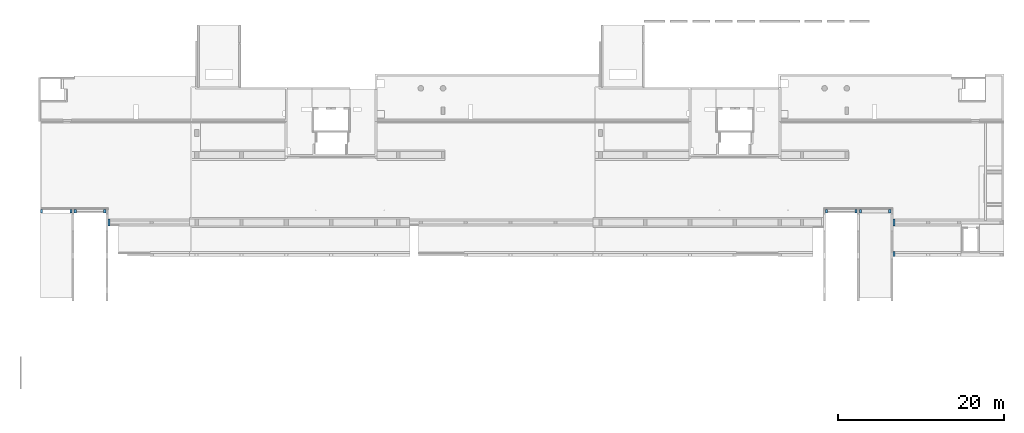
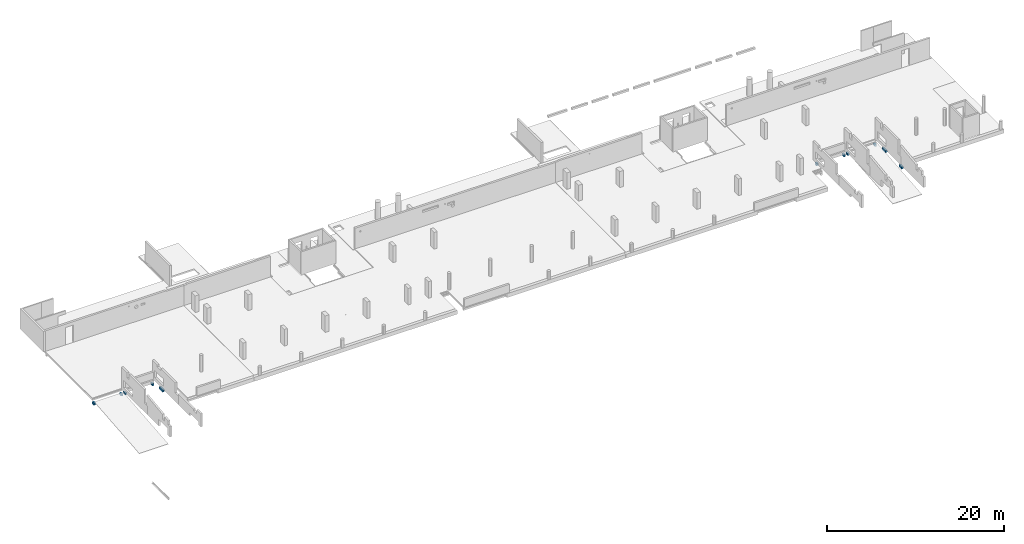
# One storey, part 10 of 10: 11 walls.
"""IFC2X3 building model written with IfcOpenShell, lengths in millimetres."""

import ifcopenshell
import ifcopenshell.guid

model = None  # the IFC model being written
_history = None  # IfcOwnerHistory: only IFC2X3 demands one
_inside = {}  # id of a spatial element -> (the spatial element, [elements in it])
_under = {}  # id of a project, library or spatial element -> (it, [spatial elements below it])
_declared = {}  # id of a project -> (the project, [libraries it declares])
_typed = {}  # id of a type object -> (the type object, [elements of that type])
_made_of = {}  # id of a material, layer set ... -> (it, [elements and type objects made of it])


def new_model(schema):
    """Start an empty IFC model of exactly this schema.

    Asked for "IFC4X3", IfcOpenShell would pick the latest addendum, in which some entities
    have other attributes; the version numbers below select the first issue.
    IFC2X3 requires an IfcOwnerHistory on every rooted entity: one is made here for all.
    """
    global model, _history
    if schema == "IFC4X3":
        model = ifcopenshell.file(schema_version=(4, 3, 0, 0))
    else:
        model = ifcopenshell.file(schema=schema)
    _inside.clear()
    _under.clear()
    _declared.clear()
    _typed.clear()
    _made_of.clear()
    _history = None
    if model.schema == "IFC2X3":
        org = make("IfcOrganization", Name="unknown")
        user = make(
            "IfcPersonAndOrganization",
            ThePerson=make("IfcPerson", FamilyName="unknown"),
            TheOrganization=org,
        )
        app = make(
            "IfcApplication",
            ApplicationDeveloper=org,
            Version="unknown",
            ApplicationFullName="unknown",
            ApplicationIdentifier="unknown",
        )
        _history = make(
            "IfcOwnerHistory",
            OwningUser=user,
            OwningApplication=app,
            ChangeAction="ADDED",
            CreationDate=0,
        )
    return model


def make(cls, **values):
    """One entity of the class cls with the attributes given. An attribute that is None is left unset."""
    return model.create_entity(
        cls, **{name: value for name, value in values.items() if value is not None}
    )


def entity(cls, *values):
    """Any entity or typed value of the class cls, its attributes in the order of the schema. None: left unset."""
    e = model.create_entity(cls)
    for i, value in enumerate(values):
        if value is not None:
            e[i] = value
    return e


def rooted(cls, **values):
    """An entity with a GlobalId (a new one), such as an element, a storey or a relation."""
    return make(cls, GlobalId=ifcopenshell.guid.new(), OwnerHistory=_history, **values)


def si_unit(unit_type, name, prefix=None):
    """IfcSIUnit, for example si_unit("LENGTHUNIT", "METRE", prefix="MILLI")."""
    return make("IfcSIUnit", UnitType=unit_type, Prefix=prefix, Name=name)


def converted_unit(unit_type, name, factor, base, dimensions=None, offset=None):
    """IfcConversionBasedUnit, such as the inch: factor (a typed value) times the base unit."""
    return make(
        "IfcConversionBasedUnit"
        if offset is None
        else "IfcConversionBasedUnitWithOffset",
        ConversionOffset=offset,
        Dimensions=None
        if dimensions is None
        else entity("IfcDimensionalExponents", *dimensions),
        UnitType=unit_type,
        Name=name,
        ConversionFactor=make(
            "IfcMeasureWithUnit", ValueComponent=factor, UnitComponent=base
        ),
    )


def derived_unit(unit_type, elements):
    """IfcDerivedUnit: a product of units, each with its exponent."""
    return make(
        "IfcDerivedUnit",
        Elements=[
            make("IfcDerivedUnitElement", Unit=unit, Exponent=power)
            for unit, power in elements
        ],
        UnitType=unit_type,
    )


def assignment(units):
    """IfcUnitAssignment: the units of a project."""
    return None if units is None else make("IfcUnitAssignment", Units=units)


def point(xyz):
    """IfcCartesianPoint."""
    return None if xyz is None else make("IfcCartesianPoint", Coordinates=xyz)


def direction(xyz):
    """IfcDirection."""
    return None if xyz is None else make("IfcDirection", DirectionRatios=xyz)


def frame(location, z_axis=None, x_axis=None):
    """IfcAxis2Placement3D, a coordinate frame: its origin and axes. An axis left out is left unset."""
    return make(
        "IfcAxis2Placement3D",
        Location=point(location),
        Axis=direction(z_axis),
        RefDirection=direction(x_axis),
    )


def origin():
    """The frame at (0, 0, 0) with its axes left unset."""
    return frame((0.0, 0.0, 0.0))


def place(relative_to, where):
    """IfcLocalPlacement: puts the frame where relative to a parent placement (None: the world)."""
    return make(
        "IfcLocalPlacement", PlacementRelTo=relative_to, RelativePlacement=where
    )


def context(
    kind, dimensions, precision=None, world=None, true_north=None, identifier=None
):
    """IfcGeometricRepresentationContext, for example the 3D "Model" context."""
    return make(
        "IfcGeometricRepresentationContext",
        ContextIdentifier=identifier,
        ContextType=kind,
        CoordinateSpaceDimension=dimensions,
        Precision=precision,
        WorldCoordinateSystem=world,
        TrueNorth=true_north,
    )


def subcontext(parent, identifier, kind, view, scale=None):
    """IfcGeometricRepresentationSubContext, for example "Body" below "Model"."""
    return make(
        "IfcGeometricRepresentationSubContext",
        ContextIdentifier=identifier,
        ContextType=kind,
        ParentContext=parent,
        TargetScale=scale,
        TargetView=view,
    )


def project(units=None, contexts=None):
    """IfcProject with its units and contexts."""
    return rooted(
        "IfcProject",
        Name="project",
        RepresentationContexts=contexts,
        UnitsInContext=assignment(units),
    )


def spatial(cls, under=None, at=None, **own):
    """A site, building, storey or space (cls), placed at a placement, below another one or the project."""
    s = rooted(cls, ObjectPlacement=at, **own)
    if under is not None:
        _under.setdefault(under.id(), (under, []))[1].append(s)
    return s


def faces_of(points, faces, orient=None, outer=None):
    """IfcFace entities. A face is a list of loops; a loop is a list of indices into points, from 0.

    orient and outer hold one flag for each loop. By default every Orientation is true, the
    first loop of a face is its IfcFaceOuterBound and the others are IfcFaceBound.
    """
    made = []
    for i, loops in enumerate(faces):
        bounds = []
        for j, loop in enumerate(loops):
            is_outer = j == 0 if outer is None else outer[i][j]
            bounds.append(
                make(
                    "IfcFaceOuterBound" if is_outer else "IfcFaceBound",
                    Bound=make("IfcPolyLoop", Polygon=[points[k] for k in loop]),
                    Orientation=True if orient is None else orient[i][j],
                )
            )
        made.append(make("IfcFace", Bounds=bounds))
    return made


def faceted_brep(points, faces, orient=None, outer=None, voids=None):
    """IfcFacetedBrep: a solid bounded by flat faces; with voids (closed shells), ...WithVoids."""
    shared = [point(p) for p in points]
    hull = make("IfcClosedShell", CfsFaces=faces_of(shared, faces, orient, outer))
    if voids is None:
        return make("IfcFacetedBrep", Outer=hull)
    return make(
        "IfcFacetedBrepWithVoids",
        Outer=hull,
        Voids=[
            make(cls, CfsFaces=faces_of(shared, fs, o, b)) for cls, fs, o, b in voids
        ],
    )


def shape(context_of_items, identifier, shape_type, items):
    """IfcShapeRepresentation: the items that make up one representation, for example the "Body"."""
    return make(
        "IfcShapeRepresentation",
        ContextOfItems=context_of_items,
        RepresentationIdentifier=identifier,
        RepresentationType=shape_type,
        Items=items,
    )


def material(Name=None, Category=None):
    """IfcMaterial."""
    return make("IfcMaterial", Name=Name, Category=Category)


def made_of(thing, what):
    """Note that an element or type object is made of a material, layer set ...; save() writes the relation."""
    if what is not None:
        _made_of.setdefault(what.id(), (what, []))[1].append(thing)
    return thing


def type_object(cls, material=None, **own):
    """A type object (cls), such as IfcWallType, which elements share."""
    return made_of(rooted(cls, **own), material)


def element(
    cls,
    number,
    at=None,
    inside=None,
    cuts=None,
    type_object=None,
    material=None,
    context=None,
    identifier="Body",
    shape_type=None,
    held_by="IfcProductDefinitionShape",
    body=None,
    shapes=None,
    **own,
):
    """One element of the class cls, such as IfcWall. Its Tag is "e" and its number.

    at: its placement. inside: the storey or other place that contains it. cuts: it is an
    opening in that element (IfcRelVoidsElement). A single representation is given by context,
    identifier, shape_type and body (its items); several are given by shapes. held_by: the class
    of the entity that holds the representations. save() writes the other relations.
    """
    e = rooted(cls, Tag="e%d" % number, ObjectPlacement=at, **own)
    if body is not None:
        shapes = [shape(context, identifier, shape_type, body)]
    if shapes is not None:
        e.Representation = make(held_by, Representations=shapes)
    if inside is not None:
        _inside.setdefault(inside.id(), (inside, []))[1].append(e)
    if cuts is not None:
        rooted(
            "IfcRelVoidsElement", RelatingBuildingElement=cuts, RelatedOpeningElement=e
        )
    if type_object is not None:
        _typed.setdefault(type_object.id(), (type_object, []))[1].append(e)
    return made_of(e, material)


def aggregate(whole, parts):
    """IfcRelAggregates: a whole, such as a stair, and the parts it consists of."""
    return rooted("IfcRelAggregates", RelatingObject=whole, RelatedObjects=parts)


def save(model, path):
    """Write the relations noted so far, then the file.

    IfcRelAggregates (storeys below a building ...), IfcRelContainedInSpatialStructure (elements
    in a storey), IfcRelDefinesByType, IfcRelAssociatesMaterial and IfcRelDeclares: one each for
    every whole, place, type object, material and project.
    """
    for whole, parts in _under.values():
        aggregate(whole, parts)
    for where, things in _inside.values():
        rooted(
            "IfcRelContainedInSpatialStructure",
            RelatedElements=things,
            RelatingStructure=where,
        )
    for kind, things in _typed.values():
        rooted("IfcRelDefinesByType", RelatedObjects=things, RelatingType=kind)
    for what, things in _made_of.values():
        rooted("IfcRelAssociatesMaterial", RelatedObjects=things, RelatingMaterial=what)
    for by, libraries in _declared.values():
        rooted("IfcRelDeclares", RelatingContext=by, RelatedDefinitions=libraries)
    model.write(path)


model = new_model("IFC2X3")

# Units and contexts
model_context = context("Model", 3, precision=0.01, world=origin(), true_north=direction((6.12303176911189e-17, 1.0)))
body_context = subcontext(model_context, "Body", "Model", "MODEL_VIEW")
ifc_project = project(units=[si_unit("LENGTHUNIT", "METRE", prefix="MILLI"), si_unit("AREAUNIT", "SQUARE_METRE"), si_unit("VOLUMEUNIT", "CUBIC_METRE"), converted_unit("PLANEANGLEUNIT", "DEGREE", entity("IfcRatioMeasure", 0.0174532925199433), si_unit("PLANEANGLEUNIT", "RADIAN"), dimensions=[0, 0, 0, 0, 0, 0, 0]), si_unit("MASSUNIT", "GRAM", prefix="KILO"), derived_unit("MASSDENSITYUNIT", [(si_unit("MASSUNIT", "GRAM", prefix="KILO"), 1), (si_unit("LENGTHUNIT", "METRE"), -3)]), si_unit("TIMEUNIT", "SECOND"), si_unit("FREQUENCYUNIT", "HERTZ"), si_unit("THERMODYNAMICTEMPERATUREUNIT", "DEGREE_CELSIUS"), derived_unit("THERMALTRANSMITTANCEUNIT", [(si_unit("MASSUNIT", "GRAM", prefix="KILO"), 1), (si_unit("THERMODYNAMICTEMPERATUREUNIT", "KELVIN"), -1), (si_unit("TIMEUNIT", "SECOND"), -3)]), derived_unit("VOLUMETRICFLOWRATEUNIT", [(si_unit("LENGTHUNIT", "METRE"), 3), (si_unit("TIMEUNIT", "SECOND"), -1)]), si_unit("ELECTRICCURRENTUNIT", "AMPERE"), si_unit("ELECTRICVOLTAGEUNIT", "VOLT"), si_unit("POWERUNIT", "WATT"), si_unit("FORCEUNIT", "NEWTON", prefix="KILO"), si_unit("ILLUMINANCEUNIT", "LUX"), si_unit("LUMINOUSFLUXUNIT", "LUMEN"), si_unit("LUMINOUSINTENSITYUNIT", "CANDELA"), derived_unit("USERDEFINED", [(si_unit("MASSUNIT", "GRAM", prefix="KILO"), -1), (si_unit("LENGTHUNIT", "METRE"), -2), (si_unit("TIMEUNIT", "SECOND"), 3), (si_unit("LUMINOUSFLUXUNIT", "LUMEN"), 1)]), derived_unit("LINEARVELOCITYUNIT", [(si_unit("LENGTHUNIT", "METRE"), 1), (si_unit("TIMEUNIT", "SECOND"), -1)]), si_unit("PRESSUREUNIT", "PASCAL"), derived_unit("USERDEFINED", [(si_unit("LENGTHUNIT", "METRE"), -2), (si_unit("MASSUNIT", "GRAM", prefix="KILO"), 1), (si_unit("TIMEUNIT", "SECOND"), -2)])], contexts=[model_context])

# Site, building, storey
site_placement = place(None, origin())
site = spatial("IfcSite", under=ifc_project, at=site_placement, Name="Default", CompositionType="ELEMENT")
building_placement = place(site_placement, origin())
building = spatial("IfcBuilding", under=site, at=building_placement, Name="niet gebruiken", CompositionType="ELEMENT")
storey_placement = place(building_placement, frame((0.0, 0.0, 9410.0)))
storey = spatial("IfcBuildingStorey", under=building, at=storey_placement, Name="02b tweede tussenverdieping", CompositionType="ELEMENT", Elevation=9409.99999999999)

# Walls
ifc_material = material(Name="NLRS_f2_beton prefab")
wall_type_1 = type_object("IfcWallType", Name="NLRS_21.21_SF_WPB_oplegnok prefabbeton_gen:250x310", PredefinedType="NOTDEFINED", material=ifc_material)
wall_1_placement = place(storey_placement, frame((110825.0, 28481.0, -850.0), z_axis=(0.0, 0.0, 1.0), x_axis=(0.0, 1.0, 0.0)))
element("IfcWall", 1, at=wall_1_placement, inside=storey, type_object=wall_type_1, material=ifc_material, Name="NLRS_21.21_SF_WPB_oplegnok prefabbeton_gen:250x310", ObjectType="NLRS_21.21_SF_WPB_oplegnok prefabbeton_gen:250x310", context=body_context, shape_type="Brep", body=[
    faceted_brep([(0.0, 0.0, 310.0), (0.0, 0.0, 0.0), (0.0, -250.0, 39.9987607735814), (0.0, -250.0, 310.0), (800.0, 0.0, 310.0), (800.0, -250.0, 310.0), (800.0, -250.0, 39.9987607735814), (800.0, 0.0, 0.0)], [[[0, 1, 2, 3]], [[4, 5, 6, 7]], [[1, 0, 4, 7]], [[3, 2, 6, 5]], [[0, 3, 5, 4]], [[2, 1, 7, 6]]]),
])
wall_2_placement = place(storey_placement, frame((110825.0, 24776.0, -850.0), z_axis=(0.0, 0.0, 1.0), x_axis=(0.0, 1.0, 0.0)))
element("IfcWall", 2, at=wall_2_placement, inside=storey, type_object=wall_type_1, material=ifc_material, Name="NLRS_21.21_SF_WPB_oplegnok prefabbeton_gen:250x310", ObjectType="NLRS_21.21_SF_WPB_oplegnok prefabbeton_gen:250x310", context=body_context, shape_type="Brep", body=[
    faceted_brep([(0.0, 0.0, 310.0), (0.0, 0.0, 0.0), (0.0, -250.0, 39.9987607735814), (0.0, -250.0, 310.0), (600.0, 0.0, 310.0), (600.0, -250.0, 310.0), (600.0, -250.0, 39.9987607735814), (600.0, 0.0, 0.0)], [[[0, 1, 2, 3]], [[4, 5, 6, 7]], [[1, 0, 4, 7]], [[3, 2, 6, 5]], [[0, 3, 5, 4]], [[2, 1, 7, 6]]]),
])
wall_3_placement = place(storey_placement, frame((16325.0, 28481.0, -850.0), z_axis=(0.0, 0.0, 1.0), x_axis=(0.0, 1.0, 0.0)))
element("IfcWall", 3, at=wall_3_placement, inside=storey, type_object=wall_type_1, material=ifc_material, Name="NLRS_21.21_SF_WPB_oplegnok prefabbeton_gen:250x310", ObjectType="NLRS_21.21_SF_WPB_oplegnok prefabbeton_gen:250x310", context=body_context, shape_type="Brep", body=[
    faceted_brep([(0.0, 0.0, 310.0), (0.0, 0.0, 0.0), (0.0, -250.0, 39.9987607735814), (0.0, -250.0, 310.0), (800.0, 0.0, 310.0), (800.0, -250.0, 310.0), (800.0, -250.0, 39.9987607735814), (800.0, 0.0, 0.0)], [[[0, 1, 2, 3]], [[4, 5, 6, 7]], [[1, 0, 4, 7]], [[3, 2, 6, 5]], [[0, 3, 5, 4]], [[2, 1, 7, 6]]]),
])
wall_type_2 = type_object("IfcWallType", Name="NLRS_21.21_SF_WPB_oplegnok prefabbeton_gen:250x270 met afschuining 9gr", PredefinedType="NOTDEFINED", material=ifc_material)
wall_4_placement = place(storey_placement, frame((12275.0, 30026.0, -770.0), z_axis=(0.0, 0.0, 1.0), x_axis=(0.0, 1.0, 0.0)))
element("IfcWall", 4, at=wall_4_placement, inside=storey, type_object=wall_type_2, material=ifc_material, Name="NLRS_21.21_SF_WPB_oplegnok prefabbeton_gen:250x270 met afschuining 9gr", ObjectType="NLRS_21.21_SF_WPB_oplegnok prefabbeton_gen:250x270 met afschuining 9gr", context=body_context, shape_type="Brep", body=[
    faceted_brep([(0.0, 0.0, 310.0), (0.0, 0.0, 0.0), (0.0, -250.0, 39.5961100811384), (0.0, -250.0, 310.0), (400.0, 0.0, 310.0), (400.0, -250.0, 310.0), (400.0, -250.0, 39.5961100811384), (400.0, 0.0, 0.0)], [[[0, 1, 2, 3]], [[4, 5, 6, 7]], [[1, 0, 4, 7]], [[3, 2, 6, 5]], [[0, 3, 5, 4]], [[2, 1, 7, 6]]]),
])
wall_5_placement = place(storey_placement, frame((15825.0, 30026.0, -770.0), z_axis=(0.0, 0.0, 1.0), x_axis=(0.0, 1.0, 0.0)))
element("IfcWall", 5, at=wall_5_placement, inside=storey, type_object=wall_type_2, material=ifc_material, Name="NLRS_21.21_SF_WPB_oplegnok prefabbeton_gen:250x270 met afschuining 9gr", ObjectType="NLRS_21.21_SF_WPB_oplegnok prefabbeton_gen:250x270 met afschuining 9gr", context=body_context, shape_type="Brep", body=[
    faceted_brep([(0.0, -250.0, 310.0), (0.0, 0.0, 310.0), (0.0, 0.0, 39.5961100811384), (0.0, -250.0, 0.0), (400.0, -250.0, 310.0), (400.0, -250.0, 0.0), (400.0, 0.0, 39.5961100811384), (400.0, 0.0, 310.0)], [[[0, 1, 2, 3]], [[4, 5, 6, 7]], [[3, 5, 4, 0]], [[1, 7, 6, 2]], [[0, 4, 7, 1]], [[2, 6, 5, 3]]]),
])
wall_6_placement = place(storey_placement, frame((8225.0, 30046.0, -770.0), z_axis=(0.0, 0.0, 1.0), x_axis=(0.0, 1.0, 0.0)))
element("IfcWall", 6, at=wall_6_placement, inside=storey, type_object=wall_type_2, material=ifc_material, Name="NLRS_21.21_SF_WPB_oplegnok prefabbeton_gen:250x270 met afschuining 9gr", ObjectType="NLRS_21.21_SF_WPB_oplegnok prefabbeton_gen:250x270 met afschuining 9gr", context=body_context, shape_type="Brep", body=[
    faceted_brep([(0.0, 0.0, 310.0), (0.0, 0.0, 0.0), (0.0, -250.0, 39.5961100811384), (0.0, -250.0, 310.0), (380.0, 0.0, 310.0), (380.0, -250.0, 310.0), (380.0, -250.0, 39.5961100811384), (380.0, 0.0, 0.0)], [[[0, 1, 2, 3]], [[4, 5, 6, 7]], [[1, 0, 4, 7]], [[3, 2, 6, 5]], [[0, 3, 5, 4]], [[2, 1, 7, 6]]]),
])
wall_7_placement = place(storey_placement, frame((11775.0, 30046.0, -770.0), z_axis=(0.0, 0.0, 1.0), x_axis=(0.0, 1.0, 0.0)))
element("IfcWall", 7, at=wall_7_placement, inside=storey, type_object=wall_type_2, material=ifc_material, Name="NLRS_21.21_SF_WPB_oplegnok prefabbeton_gen:250x270 met afschuining 9gr", ObjectType="NLRS_21.21_SF_WPB_oplegnok prefabbeton_gen:250x270 met afschuining 9gr", context=body_context, shape_type="Brep", body=[
    faceted_brep([(0.0, -250.0, 310.0), (0.0, 0.0, 310.0), (0.0, 0.0, 39.5961100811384), (0.0, -250.0, 0.0), (380.0, -250.0, 310.0), (380.0, -250.0, 0.0), (380.0, 0.0, 39.5961100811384), (380.0, 0.0, 310.0)], [[[0, 1, 2, 3]], [[4, 5, 6, 7]], [[3, 5, 4, 0]], [[1, 7, 6, 2]], [[0, 4, 7, 1]], [[2, 6, 5, 3]]]),
])
wall_type_3 = type_object("IfcWallType", Name="NLRS_21.21_SF_WPB_oplegnok prefabbeton_gen:250x270 met afschuining -9gr", PredefinedType="NOTDEFINED", material=ifc_material)
wall_8_placement = place(storey_placement, frame((106275.0, 30026.0, -769.596110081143), z_axis=(0.0, 0.0, 1.0), x_axis=(0.0, 1.0, 0.0)))
element("IfcWall", 8, at=wall_8_placement, inside=storey, type_object=wall_type_3, material=ifc_material, Name="NLRS_21.21_SF_WPB_oplegnok prefabbeton_gen:250x270 met afschuining -9gr", ObjectType="NLRS_21.21_SF_WPB_oplegnok prefabbeton_gen:250x270 met afschuining -9gr", context=body_context, shape_type="Brep", body=[
    faceted_brep([(0.0, 0.0, 309.59611008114), (0.0, 0.0, 39.5961100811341), (0.0, -250.0, 0.0), (0.0, -250.0, 309.59611008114), (400.0, 0.0, 309.59611008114), (400.0, -250.0, 309.59611008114), (400.0, -250.0, 0.0), (400.0, 0.0, 39.5961100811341)], [[[0, 1, 2, 3]], [[4, 5, 6, 7]], [[1, 0, 4, 7]], [[3, 2, 6, 5]], [[0, 3, 5, 4]], [[2, 1, 7, 6]]]),
])
wall_9_placement = place(storey_placement, frame((102725.0, 30026.0, -769.596110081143), z_axis=(0.0, 0.0, 1.0), x_axis=(0.0, 1.0, 0.0)))
element("IfcWall", 9, at=wall_9_placement, inside=storey, type_object=wall_type_3, material=ifc_material, Name="NLRS_21.21_SF_WPB_oplegnok prefabbeton_gen:250x270 met afschuining -9gr", ObjectType="NLRS_21.21_SF_WPB_oplegnok prefabbeton_gen:250x270 met afschuining -9gr", context=body_context, shape_type="Brep", body=[
    faceted_brep([(0.0, -250.0, 309.59611008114), (0.0, 0.0, 309.59611008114), (0.0, 0.0, 0.0), (0.0, -250.0, 39.5961100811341), (400.0, -250.0, 309.59611008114), (400.0, -250.0, 39.5961100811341), (400.0, 0.0, 0.0), (400.0, 0.0, 309.59611008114)], [[[0, 1, 2, 3]], [[4, 5, 6, 7]], [[3, 5, 4, 0]], [[1, 7, 6, 2]], [[0, 4, 7, 1]], [[2, 6, 5, 3]]]),
])
wall_10_placement = place(storey_placement, frame((110325.0, 30046.0, -769.596110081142), z_axis=(0.0, 0.0, 1.0), x_axis=(0.0, 1.0, 0.0)))
element("IfcWall", 10, at=wall_10_placement, inside=storey, type_object=wall_type_3, material=ifc_material, Name="NLRS_21.21_SF_WPB_oplegnok prefabbeton_gen:250x270 met afschuining -9gr", ObjectType="NLRS_21.21_SF_WPB_oplegnok prefabbeton_gen:250x270 met afschuining -9gr", context=body_context, shape_type="Brep", body=[
    faceted_brep([(0.0, 0.0, 309.596110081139), (0.0, 0.0, 39.596110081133), (0.0, -250.0, 0.0), (0.0, -250.0, 309.596110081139), (380.0, 0.0, 309.596110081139), (380.0, -250.0, 309.596110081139), (380.0, -250.0, 0.0), (380.0, 0.0, 39.596110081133)], [[[0, 1, 2, 3]], [[4, 5, 6, 7]], [[1, 0, 4, 7]], [[3, 2, 6, 5]], [[0, 3, 5, 4]], [[2, 1, 7, 6]]]),
])
wall_11_placement = place(storey_placement, frame((106775.0, 30046.0, -769.596110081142), z_axis=(0.0, 0.0, 1.0), x_axis=(0.0, 1.0, 0.0)))
element("IfcWall", 11, at=wall_11_placement, inside=storey, type_object=wall_type_3, material=ifc_material, Name="NLRS_21.21_SF_WPB_oplegnok prefabbeton_gen:250x270 met afschuining -9gr", ObjectType="NLRS_21.21_SF_WPB_oplegnok prefabbeton_gen:250x270 met afschuining -9gr", context=body_context, shape_type="Brep", body=[
    faceted_brep([(0.0, -250.0, 309.596110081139), (0.0, 0.0, 309.596110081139), (0.0, 0.0, 0.0), (0.0, -250.0, 39.596110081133), (380.0, -250.0, 309.596110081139), (380.0, -250.0, 39.596110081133), (380.0, 0.0, 0.0), (380.0, 0.0, 309.596110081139)], [[[0, 1, 2, 3]], [[4, 5, 6, 7]], [[3, 5, 4, 0]], [[1, 7, 6, 2]], [[0, 4, 7, 1]], [[2, 6, 5, 3]]]),
])

save(model, "model.ifc")
